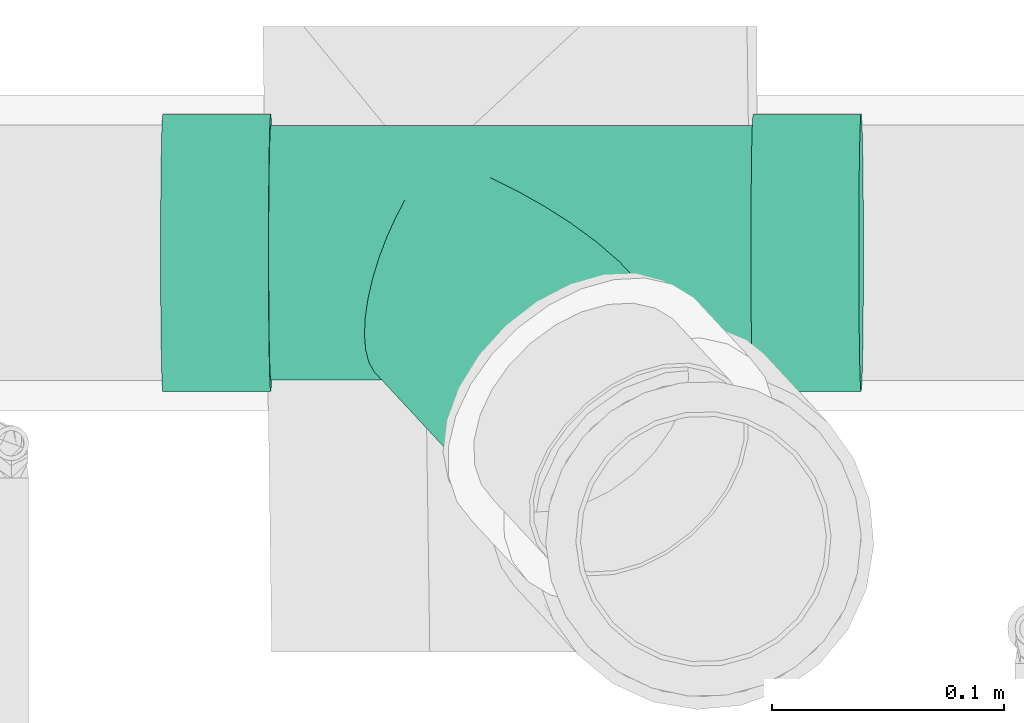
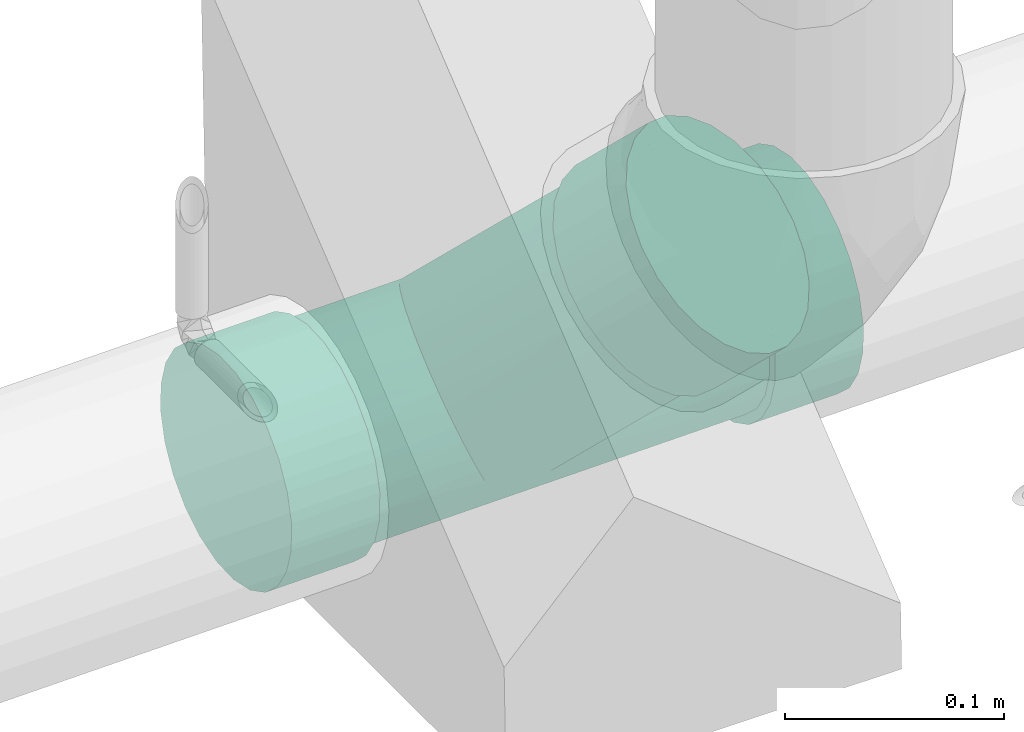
# One storey, part 117 of 156: 1 flow fitting.
"""IFC2X3 building model written with IfcOpenShell, lengths in millimetres."""

import ifcopenshell
import ifcopenshell.guid

model = None  # the IFC model being written
_history = None  # IfcOwnerHistory: only IFC2X3 demands one
_inside = {}  # id of a spatial element -> (the spatial element, [elements in it])
_under = {}  # id of a project, library or spatial element -> (it, [spatial elements below it])
_declared = {}  # id of a project -> (the project, [libraries it declares])
_typed = {}  # id of a type object -> (the type object, [elements of that type])
_made_of = {}  # id of a material, layer set ... -> (it, [elements and type objects made of it])


def new_model(schema):
    """Start an empty IFC model of exactly this schema.

    Asked for "IFC4X3", IfcOpenShell would pick the latest addendum, in which some entities
    have other attributes; the version numbers below select the first issue.
    IFC2X3 requires an IfcOwnerHistory on every rooted entity: one is made here for all.
    """
    global model, _history
    if schema == "IFC4X3":
        model = ifcopenshell.file(schema_version=(4, 3, 0, 0))
    else:
        model = ifcopenshell.file(schema=schema)
    _inside.clear()
    _under.clear()
    _declared.clear()
    _typed.clear()
    _made_of.clear()
    _history = None
    if model.schema == "IFC2X3":
        org = make("IfcOrganization", Name="unknown")
        user = make(
            "IfcPersonAndOrganization",
            ThePerson=make("IfcPerson", FamilyName="unknown"),
            TheOrganization=org,
        )
        app = make(
            "IfcApplication",
            ApplicationDeveloper=org,
            Version="unknown",
            ApplicationFullName="unknown",
            ApplicationIdentifier="unknown",
        )
        _history = make(
            "IfcOwnerHistory",
            OwningUser=user,
            OwningApplication=app,
            ChangeAction="ADDED",
            CreationDate=0,
        )
    return model


def make(cls, **values):
    """One entity of the class cls with the attributes given. An attribute that is None is left unset."""
    return model.create_entity(
        cls, **{name: value for name, value in values.items() if value is not None}
    )


def entity(cls, *values):
    """Any entity or typed value of the class cls, its attributes in the order of the schema. None: left unset."""
    e = model.create_entity(cls)
    for i, value in enumerate(values):
        if value is not None:
            e[i] = value
    return e


def rooted(cls, **values):
    """An entity with a GlobalId (a new one), such as an element, a storey or a relation."""
    return make(cls, GlobalId=ifcopenshell.guid.new(), OwnerHistory=_history, **values)


def si_unit(unit_type, name, prefix=None):
    """IfcSIUnit, for example si_unit("LENGTHUNIT", "METRE", prefix="MILLI")."""
    return make("IfcSIUnit", UnitType=unit_type, Prefix=prefix, Name=name)


def converted_unit(unit_type, name, factor, base, dimensions=None, offset=None):
    """IfcConversionBasedUnit, such as the inch: factor (a typed value) times the base unit."""
    return make(
        "IfcConversionBasedUnit"
        if offset is None
        else "IfcConversionBasedUnitWithOffset",
        ConversionOffset=offset,
        Dimensions=None
        if dimensions is None
        else entity("IfcDimensionalExponents", *dimensions),
        UnitType=unit_type,
        Name=name,
        ConversionFactor=make(
            "IfcMeasureWithUnit", ValueComponent=factor, UnitComponent=base
        ),
    )


def derived_unit(unit_type, elements):
    """IfcDerivedUnit: a product of units, each with its exponent."""
    return make(
        "IfcDerivedUnit",
        Elements=[
            make("IfcDerivedUnitElement", Unit=unit, Exponent=power)
            for unit, power in elements
        ],
        UnitType=unit_type,
    )


def assignment(units):
    """IfcUnitAssignment: the units of a project."""
    return None if units is None else make("IfcUnitAssignment", Units=units)


def point(xyz):
    """IfcCartesianPoint."""
    return None if xyz is None else make("IfcCartesianPoint", Coordinates=xyz)


def direction(xyz):
    """IfcDirection."""
    return None if xyz is None else make("IfcDirection", DirectionRatios=xyz)


def frame(location, z_axis=None, x_axis=None):
    """IfcAxis2Placement3D, a coordinate frame: its origin and axes. An axis left out is left unset."""
    return make(
        "IfcAxis2Placement3D",
        Location=point(location),
        Axis=direction(z_axis),
        RefDirection=direction(x_axis),
    )


def origin_with_axes():
    """The frame at (0, 0, 0) with the z axis (0, 0, 1) and the x axis (1, 0, 0) written out."""
    return frame((0.0, 0.0, 0.0), z_axis=(0.0, 0.0, 1.0), x_axis=(1.0, 0.0, 0.0))


def place(relative_to, where):
    """IfcLocalPlacement: puts the frame where relative to a parent placement (None: the world)."""
    return make(
        "IfcLocalPlacement", PlacementRelTo=relative_to, RelativePlacement=where
    )


def context(
    kind, dimensions, precision=None, world=None, true_north=None, identifier=None
):
    """IfcGeometricRepresentationContext, for example the 3D "Model" context."""
    return make(
        "IfcGeometricRepresentationContext",
        ContextIdentifier=identifier,
        ContextType=kind,
        CoordinateSpaceDimension=dimensions,
        Precision=precision,
        WorldCoordinateSystem=world,
        TrueNorth=true_north,
    )


def subcontext(parent, identifier, kind, view, scale=None):
    """IfcGeometricRepresentationSubContext, for example "Body" below "Model"."""
    return make(
        "IfcGeometricRepresentationSubContext",
        ContextIdentifier=identifier,
        ContextType=kind,
        ParentContext=parent,
        TargetScale=scale,
        TargetView=view,
    )


def project(units=None, contexts=None):
    """IfcProject with its units and contexts."""
    return rooted(
        "IfcProject",
        Name="project",
        RepresentationContexts=contexts,
        UnitsInContext=assignment(units),
    )


def spatial(cls, under=None, at=None, **own):
    """A site, building, storey or space (cls), placed at a placement, below another one or the project."""
    s = rooted(cls, ObjectPlacement=at, **own)
    if under is not None:
        _under.setdefault(under.id(), (under, []))[1].append(s)
    return s


def faces_of(points, faces, orient=None, outer=None):
    """IfcFace entities. A face is a list of loops; a loop is a list of indices into points, from 0.

    orient and outer hold one flag for each loop. By default every Orientation is true, the
    first loop of a face is its IfcFaceOuterBound and the others are IfcFaceBound.
    """
    made = []
    for i, loops in enumerate(faces):
        bounds = []
        for j, loop in enumerate(loops):
            is_outer = j == 0 if outer is None else outer[i][j]
            bounds.append(
                make(
                    "IfcFaceOuterBound" if is_outer else "IfcFaceBound",
                    Bound=make("IfcPolyLoop", Polygon=[points[k] for k in loop]),
                    Orientation=True if orient is None else orient[i][j],
                )
            )
        made.append(make("IfcFace", Bounds=bounds))
    return made


def open_shell(faces, orient=None, outer=None):
    """The faces of one IfcOpenShell. surface_model builds it on its shared points."""
    return ("IfcOpenShell", faces, orient, outer)


def surface_model(cls, points, shells):
    """IfcFaceBasedSurfaceModel or IfcShellBasedSurfaceModel (cls): surfaces that need not close."""
    shared = [point(p) for p in points]
    made = [make(c, CfsFaces=faces_of(shared, fs, o, b)) for c, fs, o, b in shells]
    if cls == "IfcFaceBasedSurfaceModel":
        return make(cls, FbsmFaces=made)
    return make(cls, SbsmBoundary=made)


def shape(context_of_items, identifier, shape_type, items):
    """IfcShapeRepresentation: the items that make up one representation, for example the "Body"."""
    return make(
        "IfcShapeRepresentation",
        ContextOfItems=context_of_items,
        RepresentationIdentifier=identifier,
        RepresentationType=shape_type,
        Items=items,
    )


def source(mapping_origin, context_of_items, identifier, shape_type, items):
    """IfcRepresentationMap: a shape defined once, which mapped items show again and again."""
    return make(
        "IfcRepresentationMap",
        MappingOrigin=mapping_origin,
        MappedRepresentation=shape(context_of_items, identifier, shape_type, items),
    )


def transform(
    local_origin,
    x_axis=None,
    y_axis=None,
    z_axis=None,
    scale=None,
    scale2=None,
    scale3=None,
    uniform=True,
):
    """IfcCartesianTransformationOperator3D, or its non-uniform kind. x_axis, y_axis, z_axis: its Axis1, 2, 3."""
    if uniform:
        return make(
            "IfcCartesianTransformationOperator3D",
            Axis1=direction(x_axis),
            Axis2=direction(y_axis),
            LocalOrigin=point(local_origin),
            Scale=scale,
            Axis3=direction(z_axis),
        )
    return make(
        "IfcCartesianTransformationOperator3DnonUniform",
        Axis1=direction(x_axis),
        Axis2=direction(y_axis),
        LocalOrigin=point(local_origin),
        Scale=scale,
        Axis3=direction(z_axis),
        Scale2=scale2,
        Scale3=scale3,
    )


def mapped(mapping_source, mapping_target):
    """IfcMappedItem: shows the shape of a source again, moved by a transform."""
    return make(
        "IfcMappedItem", MappingSource=mapping_source, MappingTarget=mapping_target
    )


def made_of(thing, what):
    """Note that an element or type object is made of a material, layer set ...; save() writes the relation."""
    if what is not None:
        _made_of.setdefault(what.id(), (what, []))[1].append(thing)
    return thing


def type_object(cls, material=None, **own):
    """A type object (cls), such as IfcWallType, which elements share."""
    return made_of(rooted(cls, **own), material)


def element(
    cls,
    number,
    at=None,
    inside=None,
    cuts=None,
    type_object=None,
    material=None,
    context=None,
    identifier="Body",
    shape_type=None,
    held_by="IfcProductDefinitionShape",
    body=None,
    shapes=None,
    **own,
):
    """One element of the class cls, such as IfcWall. Its Tag is "e" and its number.

    at: its placement. inside: the storey or other place that contains it. cuts: it is an
    opening in that element (IfcRelVoidsElement). A single representation is given by context,
    identifier, shape_type and body (its items); several are given by shapes. held_by: the class
    of the entity that holds the representations. save() writes the other relations.
    """
    e = rooted(cls, Tag="e%d" % number, ObjectPlacement=at, **own)
    if body is not None:
        shapes = [shape(context, identifier, shape_type, body)]
    if shapes is not None:
        e.Representation = make(held_by, Representations=shapes)
    if inside is not None:
        _inside.setdefault(inside.id(), (inside, []))[1].append(e)
    if cuts is not None:
        rooted(
            "IfcRelVoidsElement", RelatingBuildingElement=cuts, RelatedOpeningElement=e
        )
    if type_object is not None:
        _typed.setdefault(type_object.id(), (type_object, []))[1].append(e)
    return made_of(e, material)


def aggregate(whole, parts):
    """IfcRelAggregates: a whole, such as a stair, and the parts it consists of."""
    return rooted("IfcRelAggregates", RelatingObject=whole, RelatedObjects=parts)


def save(model, path):
    """Write the relations noted so far, then the file.

    IfcRelAggregates (storeys below a building ...), IfcRelContainedInSpatialStructure (elements
    in a storey), IfcRelDefinesByType, IfcRelAssociatesMaterial and IfcRelDeclares: one each for
    every whole, place, type object, material and project.
    """
    for whole, parts in _under.values():
        aggregate(whole, parts)
    for where, things in _inside.values():
        rooted(
            "IfcRelContainedInSpatialStructure",
            RelatedElements=things,
            RelatingStructure=where,
        )
    for kind, things in _typed.values():
        rooted("IfcRelDefinesByType", RelatedObjects=things, RelatingType=kind)
    for what, things in _made_of.values():
        rooted("IfcRelAssociatesMaterial", RelatedObjects=things, RelatingMaterial=what)
    for by, libraries in _declared.values():
        rooted("IfcRelDeclares", RelatingContext=by, RelatedDefinitions=libraries)
    model.write(path)


model = new_model("IFC2X3")

# Units and contexts
model_context = context("Model", 3, precision=0.01, world=frame((0.0, 4.29681676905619e-09, 0.0)), true_north=direction((4.01073788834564e-13, 1.0)))
plan_context = context("Plan", 3, precision=0.01, world=frame((0.0, 4.29681676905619e-09, 0.0)), true_north=direction((4.01073788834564e-13, 1.0)))
body_context = subcontext(model_context, "Body", "Model", "MODEL_VIEW")
ifc_project = project(units=[converted_unit("PLANEANGLEUNIT", "DEGREE", entity("IfcPositiveLengthMeasure", 0.0174532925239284), si_unit("PLANEANGLEUNIT", "RADIAN"), dimensions=[0, 0, 0, 0, 0, 0, 0]), si_unit("AREAUNIT", "SQUARE_METRE"), si_unit("LENGTHUNIT", "METRE", prefix="MILLI"), si_unit("MASSUNIT", "GRAM", prefix="KILO"), si_unit("POWERUNIT", "WATT"), si_unit("PRESSUREUNIT", "PASCAL", prefix="KILO"), si_unit("FORCEUNIT", "NEWTON", prefix="KILO"), si_unit("ELECTRICVOLTAGEUNIT", "VOLT"), si_unit("ELECTRICCURRENTUNIT", "AMPERE"), si_unit("THERMODYNAMICTEMPERATUREUNIT", "DEGREE_CELSIUS"), si_unit("TIMEUNIT", "SECOND"), si_unit("VOLUMEUNIT", "CUBIC_METRE"), derived_unit("LINEARVELOCITYUNIT", [(si_unit("LENGTHUNIT", "METRE"), 1), (si_unit("TIMEUNIT", "SECOND"), -1)]), derived_unit("VOLUMETRICFLOWRATEUNIT", [(si_unit("VOLUMEUNIT", "CUBIC_METRE"), 1), (si_unit("TIMEUNIT", "SECOND"), -1)]), derived_unit("THERMALTRANSMITTANCEUNIT", [(si_unit("POWERUNIT", "WATT"), 1), (si_unit("THERMODYNAMICTEMPERATUREUNIT", "KELVIN"), -1), (si_unit("AREAUNIT", "SQUARE_METRE"), -1)]), derived_unit("SOUNDPRESSUREUNIT", [(si_unit("PRESSUREUNIT", "PASCAL"), 1)])], contexts=[model_context, plan_context])

# Site, building, storey
site_placement = place(None, frame((0.0, -4.29681676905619e-09, 0.0), z_axis=(0.0, 0.0, 1.0), x_axis=(1.0, 0.0, 0.0)))
site = spatial("IfcSite", under=ifc_project, at=site_placement, CompositionType="ELEMENT")
building_placement = place(site_placement, frame((0.0, 4.29681676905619e-09, 0.0), z_axis=(0.0, 0.0, 1.0), x_axis=(1.0, 0.0, 0.0)))
building = spatial("IfcBuilding", under=site, at=building_placement, Name="mc-building", CompositionType="ELEMENT")
storey_placement = place(building_placement, frame((0.0, 0.0, 205200.0), z_axis=(0.0, 0.0, 1.0), x_axis=(1.0, 0.0, 0.0)))
storey = spatial("IfcBuildingStorey", under=building, at=storey_placement, Name="Nivå D + 1,2 m", CompositionType="ELEMENT", Elevation=205200.0)

# Flow fitting
pipe_fitting_type = type_object("IfcPipeFittingType", Name="magi_sewer_tee_wye_NOR", PredefinedType="JUNCTION")
shared_shape = source(origin_with_axes(), body_context, "Body", "SurfaceModel", [
    surface_model("IfcShellBasedSurfaceModel", [(182.52816, 30.0, -51.96152), (182.52816, -42.42641, -42.42641), (182.52816, 15.52914, -57.95555), (182.52816, 51.96152, -30.0), (182.52816, 42.42641, -42.42641), (182.52816, 57.95555, -15.52914), (182.52816, 60.0, 0.0), (182.52816, 0.0, -60.0), (182.52816, -30.0, -51.96152), (182.52816, -15.52914, -57.95555), (182.52816, 57.95555, 15.52914), (182.52816, -51.96152, -30.0), (182.52816, -60.0, 0.0), (182.52816, -57.95555, -15.52914), (182.52816, 51.96152, 30.0), (182.52816, 42.42641, 42.42641), (182.52816, 15.52914, 57.95555), (182.52816, 0.0, 60.0), (182.52816, 30.0, 51.96152), (182.52816, -51.96152, 30.0), (182.52816, -57.95555, 15.52914), (182.52816, -30.0, 51.96152), (182.52816, -42.42641, 42.42641), (182.52816, -15.52914, 57.95555), (136.02815, 42.42641, 42.42641), (136.02815, 0.0, 60.0), (136.02815, 15.52914, 57.95555), (136.02815, 30.0, 51.96152), (136.02815, 51.96152, 30.0), (136.02815, 57.95555, 15.52914), (136.02815, -60.0, 0.0), (136.02815, -30.0, 51.96152), (136.02815, -51.96152, 30.0), (136.02815, -42.42641, 42.42641), (136.02815, -15.52914, 57.95555), (136.02815, -57.95555, 15.52914), (136.02815, -51.96152, -30.0), (136.02815, -42.42641, -42.42641), (136.02815, 57.95555, -15.52914), (136.02815, 42.42641, -42.42641), (136.02815, 51.96152, -30.0), (136.02815, 30.0, -51.96152), (136.02815, 15.52914, -57.95555), (136.02815, -57.95555, -15.52914), (136.02815, -30.0, -51.96152), (136.02815, 0.0, -60.0), (136.02815, -15.52914, -57.95555), (136.02815, 60.0, 0.0), (64.0816, -104.99282, -60.0), (38.4744, -120.62199, -51.96152), (77.33687, -96.90256, -57.95555), (89.68881, -89.36365, -51.96152), (108.43459, -77.9223, -30.0), (14.61228, -135.18606, 15.52914), (100.29566, -82.88984, -42.42641), (27.86755, -127.0958, -42.42641), (19.72862, -132.06334, -30.0), (50.82634, -113.08308, -57.95555), (12.86719, -136.25117, 0.0), (14.61228, -135.18606, -15.52914), (113.55093, -74.79958, -15.52914), (113.55093, -74.79958, 15.52914), (115.29601, -73.73448, 0.0), (100.29566, -82.88984, 42.42641), (108.43459, -77.9223, 30.0), (64.0816, -104.99282, 60.0), (89.68881, -89.36365, 51.96152), (77.33687, -96.90256, 57.95555), (27.86755, -127.0958, 42.42641), (38.4744, -120.62199, 51.96152), (19.72862, -132.06334, 30.0), (50.82634, -113.08308, 57.95555), (88.30682, -144.68399, -60.0), (101.56209, -136.59373, -57.95555), (113.91403, -129.05481, -51.96152), (62.69962, -160.31316, -51.96152), (137.77615, -114.49075, 15.52914), (132.6598, -117.61347, -30.0), (124.52088, -122.581, -42.42641), (43.95384, -171.75451, -30.0), (52.09276, -166.78697, -42.42641), (75.05156, -152.77425, -57.95555), (37.09241, -175.94233, 0.0), (38.8375, -174.87723, -15.52914), (43.95384, -171.75451, 30.0), (137.77615, -114.49075, -15.52914), (88.30682, -144.68399, 60.0), (124.52088, -122.581, 42.42641), (132.6598, -117.61347, 30.0), (113.91403, -129.05481, 51.96152), (101.56209, -136.59373, 57.95555), (38.8375, -174.87723, 15.52914), (52.09276, -166.78697, 42.42641), (75.05156, -152.77425, 57.95555), (62.69962, -160.31316, 51.96152), (139.52123, -113.42564, 0.0), (-118.44654, -30.0, -51.96152), (-118.44654, 42.42641, -42.42641), (-118.44654, -15.52914, -57.95555), (-118.44654, -51.96152, -30.0), (-118.44654, -42.42641, -42.42641), (-118.44654, -57.95555, -15.52914), (-118.44654, -60.0, 0.0), (-118.44654, 0.0, -60.0), (-118.44654, 30.0, -51.96152), (-118.44654, 15.52914, -57.95555), (-118.44654, -57.95555, 15.52914), (-118.44654, 51.96152, -30.0), (-118.44654, 60.0, 0.0), (-118.44654, 57.95555, -15.52914), (-118.44654, -51.96152, 30.0), (-118.44654, -42.42641, 42.42641), (-118.44654, -15.52914, 57.95555), (-118.44654, 0.0, 60.0), (-118.44654, -30.0, 51.96152), (-118.44654, 51.96152, 30.0), (-118.44654, 57.95555, 15.52914), (-118.44654, 30.0, 51.96152), (-118.44654, 42.42641, 42.42641), (-118.44654, 15.52914, 57.95555), (-71.94654, -42.42641, 42.42641), (-71.94654, 0.0, 60.0), (-71.94654, -15.52914, 57.95555), (-71.94654, -30.0, 51.96152), (-71.94654, -51.96152, 30.0), (-71.94654, -57.95555, 15.52914), (-71.94654, 60.0, 0.0), (-71.94654, 30.0, 51.96152), (-71.94654, 51.96152, 30.0), (-71.94654, 42.42641, 42.42641), (-71.94654, 15.52914, 57.95555), (-71.94654, 57.95555, 15.52914), (-71.94654, 51.96152, -30.0), (-71.94654, 42.42641, -42.42641), (-71.94654, -57.95555, -15.52914), (-71.94654, -42.42641, -42.42641), (-71.94654, -51.96152, -30.0), (-71.94654, -30.0, -51.96152), (-71.94654, -15.52914, -57.95555), (-71.94654, 57.95555, -15.52914), (-71.94654, 30.0, -51.96152), (-71.94654, 0.0, -60.0), (-71.94654, 15.52914, -57.95555), (-71.94654, -60.0, 0.0), (136.02815, 27.5, -47.63139), (136.02815, 0.0, -55.0), (136.02815, 14.23505, -53.12592), (136.02815, 38.89087, -38.89087), (136.02815, -27.5, -47.63139), (136.02815, 47.63139, -27.5), (136.02815, 53.12592, -14.23505), (136.02815, 55.0, 0.0), (136.02815, -14.23505, -53.12592), (136.02815, -47.63139, -27.5), (136.02815, -38.89087, -38.89087), (136.02815, -55.0, 0.0), (136.02815, -53.12592, -14.23505), (136.02815, 53.12592, 14.23505), (136.02815, 47.63139, 27.5), (136.02815, 27.5, 47.63139), (136.02815, 38.89087, 38.89087), (136.02815, 14.23505, 53.12592), (136.02815, 0.0, 55.0), (136.02815, -47.63139, 27.5), (136.02815, -53.12592, 14.23505), (136.02815, -27.5, 47.63139), (136.02815, -38.89087, 38.89087), (136.02815, -14.23505, 53.12592), (-71.94654, 0.0, 55.0), (-71.94654, 14.23505, 53.12592), (-71.94654, 27.5, 47.63139), (-71.94654, -14.23505, 53.12592), (-71.94654, 47.63139, 27.5), (-71.94654, 38.89087, 38.89087), (-71.94654, -27.5, -47.63139), (-71.94654, -47.63139, 27.5), (-71.94654, -38.89087, 38.89087), (-71.94654, -27.5, 47.63139), (-71.94654, -55.0, 0.0), (-71.94654, -53.12592, 14.23505), (-71.94654, -47.63139, -27.5), (-71.94654, 55.0, 0.0), (-71.94654, 53.12592, 14.23505), (-71.94654, 53.12592, -14.23505), (-71.94654, 47.63139, -27.5), (-71.94654, 27.5, -47.63139), (-71.94654, 0.0, -55.0), (-71.94654, 38.89087, -38.89087), (-71.94654, 14.23505, -53.12592), (-71.94654, -38.89087, -38.89087), (-71.94654, -53.12592, -14.23505), (-71.94654, -14.23505, -53.12592), (-71.94654, -54.06296, -7.11752), (-30.42748, -54.21836, -9.23956), (-30.64681, -54.60918, -4.61978), (-29.78368, -53.07117, -13.68757), (-27.07779, -48.24958, -26.40033), (-28.10883, -50.08679, -22.26796), (-24.34501, -43.38007, -33.81079), (-71.94654, -43.26114, -33.19544), (-21.05844, -37.52379, -40.21151), (-71.94654, -33.19544, -43.26114), (-71.94654, -50.37866, -20.86752), (96.60242, -54.21351, -6.52978), (136.02815, -54.06296, -7.11752), (-17.33329, -30.88598, -45.50885), (-29.13987, -51.92399, -18.13559), (-4.52518, -8.06336, -54.40572), (-71.94654, -7.11752, -54.06296), (88.23004, -49.51492, -23.94311), (136.02815, -50.37866, -20.86752), (91.71551, -51.47098, -18.50133), (95.20099, -53.42704, -13.05956), (98.00384, -55.0, 0.0), (79.09123, -44.38619, -32.4787), (136.02815, -43.26114, -33.19544), (83.66064, -46.95056, -28.21091), (-13.27425, -23.65323, -49.65405), (-71.94654, -20.86752, -50.37866), (57.9519, -32.52275, -44.35393), (46.68586, -26.20022, -48.35854), (68.83524, -38.63051, -39.1495), (-8.97629, -15.99474, -52.62289), (0.0, 0.0, -55.0), (-30.86614, -55.0, 0.0), (23.52716, -13.2035, -53.39164), (11.78369, -6.61303, -54.60099), (35.18145, -19.74392, -51.33398), (0.0, 0.0, 55.0), (-4.52518, -8.06336, 54.40572), (-71.94654, -7.11752, 54.06296), (83.66064, -46.95056, 28.21091), (136.02815, -43.26114, 33.19544), (79.09123, -44.38619, 32.4787), (-8.97629, -15.99474, 52.62289), (-71.94654, -20.86752, 50.37866), (-13.27425, -23.65323, 49.65405), (91.71551, -51.47098, 18.50133), (95.20099, -53.42704, 13.05956), (96.60242, -54.21351, 6.52978), (11.78369, -6.61303, 54.60099), (23.52716, -13.2035, 53.39164), (35.18145, -19.74392, 51.33398), (-17.33329, -30.88598, 45.50885), (-71.94654, -33.19544, 43.26114), (-21.05844, -37.52379, 40.21151), (-24.34501, -43.38007, 33.81079), (-71.94654, -43.26114, 33.19544), (-30.42748, -54.21836, 9.23956), (-71.94654, -54.06296, 7.11752), (-27.07779, -48.24958, 26.40033), (-30.64681, -54.60918, 4.61978), (-71.94654, -50.37866, 20.86752), (-28.10883, -50.08679, 22.26796), (-29.78368, -53.07117, 13.68757), (-29.13987, -51.92399, 18.13559), (136.02815, -50.37866, 20.86752), (88.23004, -49.51492, 23.94311), (136.02815, -54.06296, 7.11752), (57.9519, -32.52275, 44.35393), (68.83524, -38.63051, 39.1495), (46.68586, -26.20022, 48.35854), (76.23227, -97.57676, -53.12592), (30.88539, -125.25389, -38.89087), (64.0816, -104.99282, -55.0), (97.27783, -84.73175, -38.89087), (87.55488, -90.66608, -47.63139), (104.7385, -80.17817, -27.5), (109.42849, -77.31568, -14.23505), (111.02815, -76.33934, 0.0), (18.73473, -132.66995, -14.23505), (40.60833, -119.31956, -47.63139), (51.93095, -112.40889, -53.12592), (23.42471, -129.80747, -27.5), (23.42471, -129.80747, 27.5), (17.13506, -133.6463, 0.0), (109.42849, -77.31568, 14.23505), (104.7385, -80.17817, 27.5), (64.0816, -104.99282, 55.0), (87.55488, -90.66608, 47.63139), (76.23227, -97.57676, 53.12592), (97.27783, -84.73175, 38.89087), (30.88539, -125.25389, 38.89087), (18.73473, -132.66995, 14.23505), (40.60833, -119.31956, 47.63139), (51.93095, -112.40889, 53.12592), (101.00816, -82.45496, 33.19544), (107.0835, -78.74693, 20.86752), (107.0835, -78.74693, -20.86752), (101.00816, -82.45496, -33.19544)], [open_shell([[[0, 1, 2]], [[3, 0, 4]], [[5, 6, 0]], [[5, 0, 3]], [[1, 0, 6]], [[7, 8, 9]], [[8, 7, 1]], [[2, 1, 7]], [[1, 10, 11]], [[11, 12, 13]], [[10, 1, 6]], [[10, 14, 15]], [[12, 10, 15]], [[16, 17, 15]], [[16, 15, 18]], [[19, 15, 17]], [[12, 19, 20]], [[12, 15, 19]], [[19, 21, 22]], [[19, 17, 21]], [[23, 21, 17]], [[10, 12, 11]], [[24, 25, 26]], [[24, 26, 27]], [[24, 28, 29]], [[25, 24, 30]], [[30, 24, 29]], [[31, 32, 33]], [[31, 34, 25]], [[32, 30, 35]], [[31, 25, 32]], [[25, 30, 32]], [[29, 36, 30]], [[37, 29, 38]], [[39, 38, 40]], [[41, 42, 38]], [[41, 38, 39]], [[37, 38, 42]], [[37, 36, 29]], [[43, 30, 36]], [[44, 45, 46]], [[45, 44, 37]], [[45, 37, 42]], [[47, 38, 29]], [[43, 13, 30]], [[36, 11, 43]], [[8, 37, 44]], [[36, 37, 1]], [[9, 44, 46]], [[43, 11, 13]], [[13, 12, 30]], [[9, 8, 44]], [[1, 37, 8]], [[1, 11, 36]], [[7, 9, 46]], [[46, 45, 7]], [[2, 42, 41]], [[39, 0, 41]], [[3, 40, 38]], [[39, 40, 4]], [[5, 38, 47]], [[42, 2, 45]], [[41, 0, 2]], [[45, 2, 7]], [[39, 4, 0]], [[40, 3, 4]], [[5, 3, 38]], [[47, 6, 5]], [[29, 10, 47]], [[28, 14, 29]], [[18, 24, 27]], [[28, 24, 15]], [[16, 27, 26]], [[29, 14, 10]], [[10, 6, 47]], [[18, 27, 16]], [[15, 24, 18]], [[15, 14, 28]], [[16, 25, 17]], [[16, 26, 25]], [[23, 34, 31]], [[33, 21, 31]], [[19, 32, 35]], [[33, 32, 22]], [[20, 35, 30]], [[34, 23, 25]], [[31, 21, 23]], [[25, 23, 17]], [[33, 22, 21]], [[32, 19, 22]], [[20, 19, 35]], [[30, 12, 20]], [[48, 49, 50]], [[51, 50, 52]], [[50, 49, 53]], [[54, 51, 52]], [[53, 52, 50]], [[55, 56, 49]], [[48, 57, 49]], [[58, 53, 59]], [[59, 53, 56]], [[53, 49, 56]], [[53, 60, 52]], [[61, 62, 63]], [[64, 61, 63]], [[65, 66, 62]], [[63, 62, 66]], [[67, 66, 65]], [[68, 69, 70]], [[53, 70, 69]], [[71, 65, 69]], [[62, 53, 69]], [[69, 65, 62]], [[60, 53, 62]], [[72, 73, 74]], [[75, 72, 74]], [[76, 75, 74]], [[77, 74, 78]], [[74, 77, 76]], [[75, 79, 80]], [[75, 81, 72]], [[79, 82, 83]], [[82, 79, 75]], [[75, 84, 82]], [[77, 85, 76]], [[86, 75, 76]], [[87, 76, 88]], [[89, 90, 76]], [[89, 76, 87]], [[86, 76, 90]], [[84, 91, 82]], [[92, 84, 75]], [[92, 93, 94]], [[93, 92, 86]], [[86, 92, 75]], [[76, 85, 95]], [[91, 58, 82]], [[84, 53, 91]], [[68, 92, 94]], [[84, 92, 70]], [[69, 94, 93]], [[84, 70, 53]], [[53, 58, 91]], [[71, 86, 65]], [[71, 69, 93]], [[68, 94, 69]], [[68, 70, 92]], [[86, 71, 93]], [[66, 90, 89]], [[87, 63, 89]], [[61, 88, 76]], [[87, 88, 64]], [[62, 76, 95]], [[90, 67, 65]], [[90, 66, 67]], [[89, 63, 66]], [[87, 64, 63]], [[61, 64, 88]], [[76, 62, 61]], [[90, 65, 86]], [[85, 62, 95]], [[77, 60, 85]], [[54, 78, 74]], [[77, 78, 52]], [[51, 74, 73]], [[77, 52, 60]], [[60, 62, 85]], [[50, 72, 48]], [[50, 51, 73]], [[54, 74, 51]], [[54, 52, 78]], [[72, 50, 73]], [[49, 81, 75]], [[80, 55, 75]], [[59, 79, 83]], [[80, 79, 56]], [[58, 83, 82]], [[57, 48, 81]], [[57, 81, 49]], [[75, 55, 49]], [[80, 56, 55]], [[59, 56, 79]], [[83, 58, 59]], [[81, 48, 72]], [[96, 97, 98]], [[99, 96, 100]], [[101, 102, 96]], [[101, 96, 99]], [[97, 96, 102]], [[103, 104, 105]], [[104, 103, 97]], [[98, 97, 103]], [[97, 106, 107]], [[107, 108, 109]], [[106, 97, 102]], [[106, 110, 111]], [[108, 106, 111]], [[112, 113, 111]], [[112, 111, 114]], [[115, 111, 113]], [[108, 115, 116]], [[108, 111, 115]], [[115, 117, 118]], [[115, 113, 117]], [[119, 117, 113]], [[106, 108, 107]], [[120, 121, 122]], [[120, 122, 123]], [[120, 124, 125]], [[121, 120, 126]], [[126, 120, 125]], [[127, 128, 129]], [[127, 130, 121]], [[128, 126, 131]], [[127, 121, 128]], [[121, 126, 128]], [[125, 132, 126]], [[133, 125, 134]], [[135, 134, 136]], [[137, 138, 134]], [[137, 134, 135]], [[133, 134, 138]], [[133, 132, 125]], [[139, 126, 132]], [[140, 141, 142]], [[141, 140, 133]], [[141, 133, 138]], [[143, 134, 125]], [[139, 109, 126]], [[132, 107, 139]], [[104, 133, 140]], [[132, 133, 97]], [[105, 140, 142]], [[139, 107, 109]], [[109, 108, 126]], [[105, 104, 140]], [[97, 133, 104]], [[97, 107, 132]], [[103, 105, 142]], [[142, 141, 103]], [[98, 138, 137]], [[135, 96, 137]], [[99, 136, 134]], [[135, 136, 100]], [[101, 134, 143]], [[138, 98, 141]], [[137, 96, 98]], [[141, 98, 103]], [[135, 100, 96]], [[136, 99, 100]], [[101, 99, 134]], [[143, 102, 101]], [[125, 106, 143]], [[124, 110, 125]], [[114, 120, 123]], [[124, 120, 111]], [[112, 123, 122]], [[125, 110, 106]], [[106, 102, 143]], [[114, 123, 112]], [[111, 120, 114]], [[111, 110, 124]], [[112, 121, 113]], [[112, 122, 121]], [[119, 130, 127]], [[129, 117, 127]], [[115, 128, 131]], [[129, 128, 118]], [[116, 131, 126]], [[130, 119, 121]], [[127, 117, 119]], [[121, 119, 113]], [[129, 118, 117]], [[128, 115, 118]], [[116, 115, 131]], [[126, 108, 116]], [[144, 145, 146]], [[147, 148, 144]], [[148, 149, 150]], [[147, 149, 148]], [[151, 148, 150]], [[145, 148, 152]], [[145, 144, 148]], [[148, 153, 154]], [[148, 151, 153]], [[155, 156, 153]], [[153, 151, 157]], [[158, 155, 157]], [[159, 158, 160]], [[159, 161, 162]], [[158, 159, 155]], [[162, 163, 159]], [[155, 163, 164]], [[155, 159, 163]], [[162, 165, 166]], [[166, 163, 162]], [[165, 162, 167]], [[157, 155, 153]], [[168, 169, 170]], [[171, 168, 170]], [[171, 170, 172]], [[172, 170, 173]], [[174, 175, 172]], [[171, 176, 177]], [[171, 172, 176]], [[175, 178, 179]], [[176, 172, 175]], [[175, 180, 178]], [[181, 172, 182]], [[181, 183, 184]], [[181, 184, 185]], [[181, 185, 186]], [[185, 184, 187]], [[186, 185, 188]], [[180, 174, 189]], [[190, 178, 180]], [[174, 186, 191]], [[180, 175, 174]], [[186, 174, 181]], [[172, 181, 174]], [[192, 190, 193]], [[178, 192, 194]], [[195, 193, 190]], [[196, 197, 180]], [[198, 199, 189]], [[200, 189, 201]], [[180, 197, 202]], [[198, 196, 180]], [[200, 198, 189]], [[155, 203, 204]], [[201, 174, 205]], [[197, 206, 202]], [[207, 191, 208]], [[209, 210, 211]], [[212, 204, 203]], [[155, 213, 203]], [[211, 156, 212]], [[214, 215, 216]], [[217, 174, 218]], [[192, 193, 194]], [[148, 219, 220]], [[221, 219, 154]], [[154, 215, 221]], [[154, 219, 148]], [[215, 153, 216]], [[198, 180, 199]], [[156, 211, 210]], [[200, 201, 205]], [[205, 174, 217]], [[217, 218, 222]], [[222, 218, 191]], [[208, 186, 223]], [[212, 156, 204]], [[207, 222, 191]], [[207, 208, 223]], [[190, 206, 195]], [[186, 188, 223]], [[221, 215, 214]], [[147, 187, 184]], [[149, 184, 183]], [[146, 188, 185]], [[144, 185, 187]], [[146, 223, 188]], [[150, 183, 181]], [[153, 209, 216]], [[178, 194, 224]], [[225, 226, 152]], [[227, 225, 152]], [[152, 148, 227]], [[152, 226, 145]], [[227, 148, 220]], [[223, 145, 226]], [[209, 153, 210]], [[146, 145, 223]], [[144, 146, 185]], [[144, 187, 147]], [[149, 147, 184]], [[150, 149, 183]], [[181, 151, 150]], [[206, 190, 202]], [[158, 172, 173]], [[172, 158, 182]], [[157, 181, 182]], [[170, 160, 173]], [[168, 228, 169]], [[229, 230, 171]], [[231, 232, 233]], [[234, 229, 171]], [[234, 171, 235]], [[234, 235, 236]], [[235, 177, 236]], [[170, 169, 159]], [[230, 228, 168]], [[151, 181, 157]], [[157, 182, 158]], [[170, 159, 160]], [[159, 169, 161]], [[160, 158, 173]], [[164, 237, 238]], [[155, 239, 213]], [[240, 241, 167]], [[228, 240, 162]], [[240, 167, 162]], [[167, 241, 242]], [[165, 167, 242]], [[228, 230, 229]], [[228, 162, 161]], [[228, 161, 169]], [[243, 177, 244]], [[244, 176, 245]], [[246, 247, 175]], [[248, 179, 249]], [[243, 244, 245]], [[246, 245, 176]], [[232, 231, 163]], [[175, 250, 246]], [[246, 176, 247]], [[178, 224, 251]], [[249, 251, 248]], [[252, 253, 175]], [[254, 255, 179]], [[178, 251, 249]], [[256, 257, 237]], [[255, 252, 179]], [[258, 238, 239]], [[179, 248, 254]], [[259, 260, 166]], [[261, 259, 165]], [[259, 166, 165]], [[260, 233, 232]], [[260, 232, 166]], [[175, 253, 250]], [[261, 165, 242]], [[252, 255, 253]], [[155, 258, 239]], [[164, 256, 237]], [[257, 256, 163]], [[164, 238, 258]], [[257, 163, 231]], [[243, 236, 177]], [[262, 263, 264]], [[265, 262, 266]], [[265, 267, 268]], [[262, 265, 263]], [[265, 269, 270]], [[264, 271, 272]], [[264, 263, 271]], [[263, 270, 273]], [[265, 270, 263]], [[270, 274, 275]], [[269, 265, 268]], [[269, 276, 277]], [[278, 269, 277]], [[279, 280, 277]], [[279, 277, 281]], [[278, 277, 280]], [[282, 274, 270]], [[283, 275, 274]], [[284, 278, 285]], [[284, 282, 269]], [[284, 269, 278]], [[270, 269, 282]], [[275, 283, 248]], [[233, 281, 286]], [[248, 224, 275]], [[248, 283, 255]], [[282, 284, 243]], [[246, 274, 282]], [[255, 283, 274]], [[236, 284, 285]], [[250, 255, 274]], [[245, 246, 282]], [[250, 274, 246]], [[236, 243, 284]], [[229, 234, 285]], [[278, 228, 229]], [[236, 285, 234]], [[245, 282, 243]], [[276, 237, 287]], [[229, 285, 278]], [[279, 242, 280]], [[280, 240, 278]], [[259, 279, 281]], [[238, 276, 269]], [[286, 277, 233]], [[237, 276, 238]], [[269, 213, 238]], [[261, 242, 279]], [[241, 240, 280]], [[242, 241, 280]], [[257, 277, 287]], [[257, 287, 237]], [[260, 259, 281]], [[233, 260, 281]], [[257, 233, 277]], [[261, 279, 259]], [[278, 240, 228]], [[269, 268, 212]], [[268, 211, 212]], [[212, 213, 269]], [[288, 211, 268]], [[265, 266, 219]], [[214, 289, 265]], [[209, 288, 267]], [[227, 266, 262]], [[214, 209, 267]], [[219, 221, 265]], [[214, 265, 221]], [[227, 220, 266]], [[226, 225, 262]], [[264, 223, 226]], [[227, 262, 225]], [[219, 266, 220]], [[288, 209, 211]], [[226, 262, 264]], [[271, 217, 272]], [[272, 207, 264]], [[205, 271, 263]], [[193, 270, 275]], [[263, 273, 198]], [[270, 206, 273]], [[275, 224, 193]], [[205, 217, 271]], [[222, 207, 272]], [[217, 222, 272]], [[214, 267, 289]], [[193, 206, 270]], [[198, 200, 263]], [[196, 198, 273]], [[206, 196, 273]], [[205, 263, 200]], [[264, 207, 223]]])]),
])
flow_fitting_placement = place(storey_placement, frame((325351.36301, 462724.75736, 4174.82712), z_axis=(-0.0107249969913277, 0.765351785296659, 0.643522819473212), x_axis=(0.999861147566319, -1.20961537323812e-07, 0.0166639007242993)))
element("IfcFlowFitting", 1, at=flow_fitting_placement, inside=storey, type_object=pipe_fitting_type, Name="magi_sewer_tee_wye_NOR", context=body_context, shape_type="MappedRepresentation", body=[
    mapped(shared_shape, transform((0.0, 0.0, 0.0), scale=1.0)),
])

save(model, "model.ifc")
